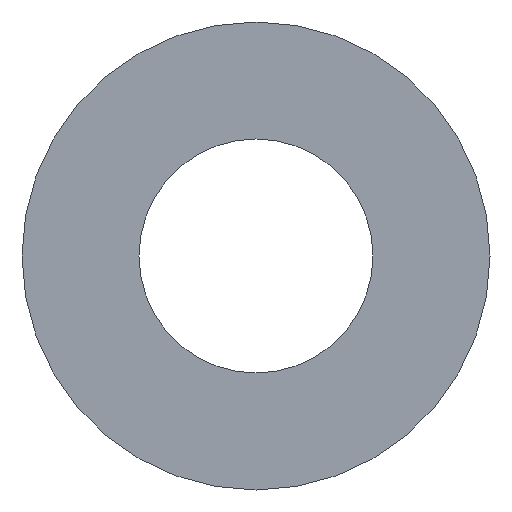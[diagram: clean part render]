
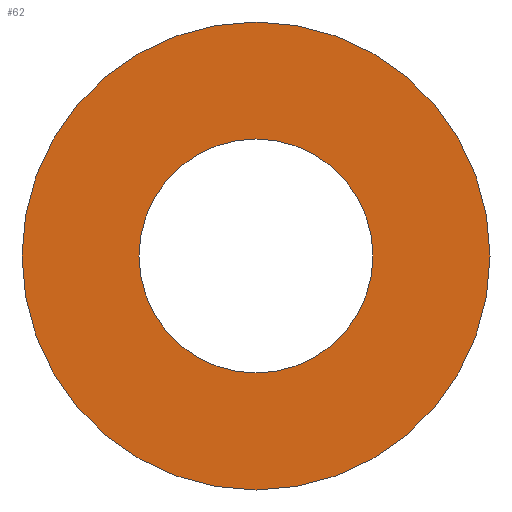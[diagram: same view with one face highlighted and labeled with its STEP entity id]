
A CAD part, front view. The second image highlights one B-rep face of the part: STEP entity #62.
In plain terms, the highlighted planar face has unit normal (0, -1, 0).
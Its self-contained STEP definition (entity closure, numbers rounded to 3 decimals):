
#20=PLANE('',#83);
#26=ORIENTED_EDGE('',*,*,#30,.T.);
#27=ORIENTED_EDGE('',*,*,#32,.F.);
#30=EDGE_CURVE('',#34,#34,#38,.T.);
#32=EDGE_CURVE('',#36,#36,#40,.T.);
#34=VERTEX_POINT('',#106);
#36=VERTEX_POINT('',#111);
#38=CIRCLE('',#78,23.);
#40=CIRCLE('',#81,46.);
#46=EDGE_LOOP('',(#26));
#47=EDGE_LOOP('',(#27));
#54=FACE_BOUND('',#46,.T.);
#55=FACE_BOUND('',#47,.T.);
#62=ADVANCED_FACE('',(#54,#55),#20,.F.);
#78=AXIS2_PLACEMENT_3D('',#105,#89,#90);
#81=AXIS2_PLACEMENT_3D('',#110,#95,#96);
#83=AXIS2_PLACEMENT_3D('',#114,#99,#100);
#89=DIRECTION('',(0.,1.,0.));
#90=DIRECTION('',(1.,0.,0.));
#95=DIRECTION('',(0.,1.,0.));
#96=DIRECTION('',(1.,0.,0.));
#99=DIRECTION('',(0.,1.,0.));
#100=DIRECTION('',(0.,0.,1.));
#105=CARTESIAN_POINT('',(0.,-1.5,0.));
#106=CARTESIAN_POINT('',(23.,-1.5,0.));
#110=CARTESIAN_POINT('',(0.,-1.5,0.));
#111=CARTESIAN_POINT('',(46.,-1.5,0.));
#114=CARTESIAN_POINT('',(0.,-1.5,0.));
